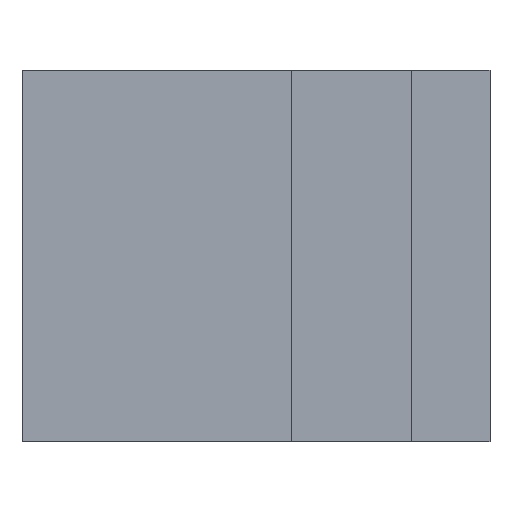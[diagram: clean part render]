
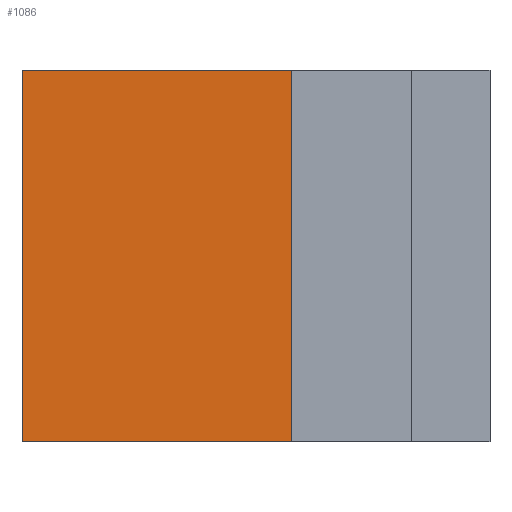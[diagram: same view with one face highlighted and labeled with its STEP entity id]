
A CAD part, left-side view. The second image highlights one B-rep face of the part: STEP entity #1086.
In plain terms, the highlighted planar face has unit normal (-1, 0, 0).
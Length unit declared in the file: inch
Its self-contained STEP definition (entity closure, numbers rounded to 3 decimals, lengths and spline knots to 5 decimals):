
#1030=CARTESIAN_POINT('',(-0.88583,0.16142,1.0));
#1031=VERTEX_POINT('',#1030);
#1038=CARTESIAN_POINT('',(-0.88583,0.16142,0.0));
#1039=VERTEX_POINT('',#1038);
#1040=CARTESIAN_POINT('',(-0.88583,0.16142,0.0));
#1041=DIRECTION('',(0.0,0.0,1.0));
#1042=VECTOR('',#1041,1.0);
#1043=LINE('',#1040,#1042);
#1044=EDGE_CURVE('',#1039,#1031,#1043,.T.);
#1056=CARTESIAN_POINT('',(-0.88583,0.16142,0.0));
#1057=DIRECTION('',(-1.0,0.,0.0));
#1058=DIRECTION('',(0.0,0.0,1.0));
#1059=AXIS2_PLACEMENT_3D('',#1056,#1057,#1058);
#1060=PLANE('',#1059);
#1061=CARTESIAN_POINT('',(-0.88583,0.88583,1.0));
#1062=VERTEX_POINT('',#1061);
#1063=CARTESIAN_POINT('',(-0.88583,0.16142,1.0));
#1064=DIRECTION('',(0.,1.0,0.0));
#1065=VECTOR('',#1064,0.72441);
#1066=LINE('',#1063,#1065);
#1067=EDGE_CURVE('',#1031,#1062,#1066,.T.);
#1068=ORIENTED_EDGE('',*,*,#1067,.T.);
#1069=CARTESIAN_POINT('',(-0.88583,0.88583,0.0));
#1070=VERTEX_POINT('',#1069);
#1071=CARTESIAN_POINT('',(-0.88583,0.88583,0.0));
#1072=DIRECTION('',(0.0,0.0,1.0));
#1073=VECTOR('',#1072,1.0);
#1074=LINE('',#1071,#1073);
#1075=EDGE_CURVE('',#1070,#1062,#1074,.T.);
#1076=ORIENTED_EDGE('',*,*,#1075,.F.);
#1077=CARTESIAN_POINT('',(-0.88583,0.16142,0.0));
#1078=DIRECTION('',(0.,1.0,0.0));
#1079=VECTOR('',#1078,0.72441);
#1080=LINE('',#1077,#1079);
#1081=EDGE_CURVE('',#1039,#1070,#1080,.T.);
#1082=ORIENTED_EDGE('',*,*,#1081,.F.);
#1083=ORIENTED_EDGE('',*,*,#1044,.T.);
#1084=EDGE_LOOP('',(#1068,#1076,#1082,#1083));
#1085=FACE_OUTER_BOUND('',#1084,.T.);
#1086=ADVANCED_FACE('',(#1085),#1060,.T.);
